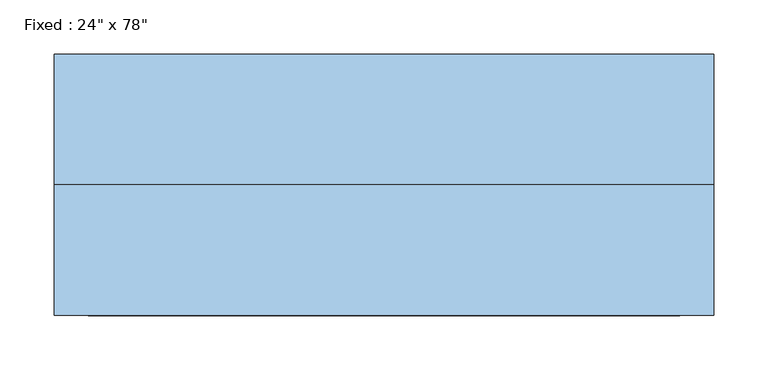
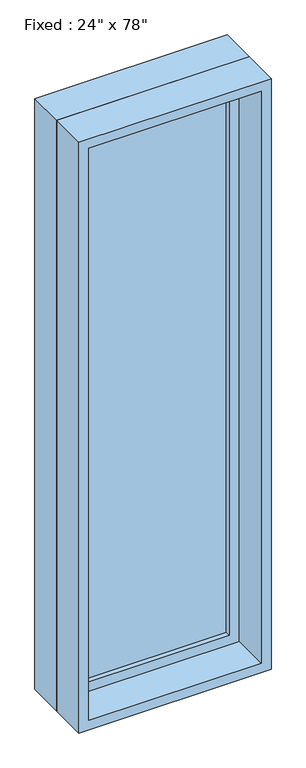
"""IFC4 building model written with IfcOpenShell, lengths in millimetres: window geometry."""

from ifc_helpers import new_model, si_unit, frame, origin, place, context, project, spatial, polyline, outline, extrude, source, transform, mapped, element, save


def window_03925a3a(model_context):
    return source(origin(), model_context, "Body", "SweptSolid", [
        extrude(outline(polyline([(203.2, 15.875), (-279.4, 15.875), (-279.4, 28.575), (203.2, 28.575), (203.2, 15.875)])), frame((0.0, 0.0, 368.3), z_axis=(0.0, 0.0, 1.0), x_axis=(1.0, 0.0, 0.0)), (0.0, 0.0, 1.0), 1854.2),
        extrude(outline(polyline([(2266.95, -323.85), (323.85, -323.85), (323.85, 247.65), (2266.95, 247.65), (2266.95, -323.85)]), holes=[polyline([(2222.5, -279.4), (2222.5, 203.2), (368.3, 203.2), (368.3, -279.4), (2222.5, -279.4)])]), frame((0.0, 0.0, 0.0), z_axis=(0.0, 1.0, 0.0), x_axis=(0.0, 0.0, 1.0)), (0.0, 0.0, 1.0), 44.45),
        extrude(outline(polyline([(2286.0, -342.9), (304.8, -342.9), (304.8, 266.7), (2286.0, 266.7), (2286.0, -342.9)]), holes=[polyline([(2254.25, -311.15), (2254.25, 234.95), (336.55, 234.95), (336.55, -311.15), (2254.25, -311.15)])]), frame((0.0, -120.65, 0.0), z_axis=(0.0, 1.0, 0.0), x_axis=(0.0, 0.0, 1.0)), (0.0, 0.0, 1.0), 120.65),
        extrude(outline(polyline([(2286.0, 266.7), (2286.0, -342.9), (304.8, -342.9), (304.8, 266.7), (2286.0, 266.7)]), holes=[polyline([(2266.95, 247.65), (323.85, 247.65), (323.85, -323.85), (2266.95, -323.85), (2266.95, 247.65)])]), frame((0.0, 0.0, 0.0), z_axis=(0.0, 1.0, 0.0), x_axis=(0.0, 0.0, 1.0)), (0.0, 0.0, 1.0), 120.65),
    ])


if __name__ == "__main__":
    model = new_model("IFC4")
    model_context = context("Model", 3, world=origin())
    ifc_project = project(units=[si_unit("LENGTHUNIT", "METRE", prefix="MILLI")], contexts=[model_context])
    site = spatial("IfcSite", under=ifc_project)
    building = spatial("IfcBuilding", under=site)
    placement = place(None, origin())
    window_shape = window_03925a3a(model_context)
    element("IfcWindow", 1, ObjectType="Fixed : 24\" x 78\"", at=placement, inside=building, context=model_context, shape_type="MappedRepresentation", body=[
        mapped(window_shape, transform((0.0, 0.0, 0.0), x_axis=(1.0, 0.0, 0.0), y_axis=(0.0, 1.0, 0.0), z_axis=(0.0, 0.0, 1.0))),
    ])
    save(model, "model.ifc")
